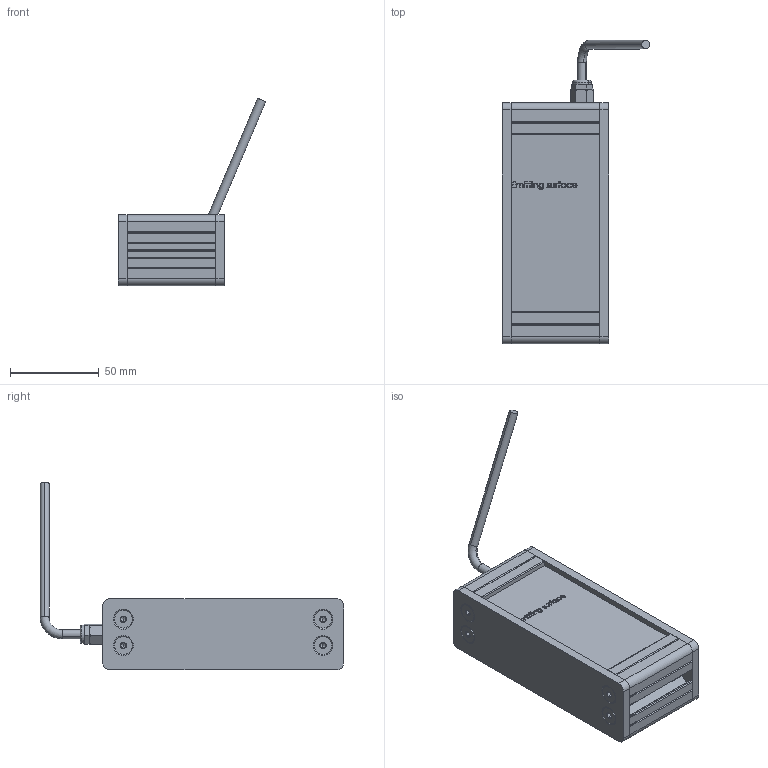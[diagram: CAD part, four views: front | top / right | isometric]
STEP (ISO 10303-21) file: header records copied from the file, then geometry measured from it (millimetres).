
FILE_DESCRIPTION (( 'STEP AP214' ), '1' );
FILE_NAME ('EFFI-BL-50T-100-1M12.STEP', '2021-06-28T08:02:57', ( '' ), ( '' ), 'SwSTEP 2.0', 'SolidWorks 2021', '' );
FILE_SCHEMA (( 'AUTOMOTIVE_DESIGN' ));
Length unit declared in the file: millimetre
Products named in the file (7): 003776; profile modif_lg 99.5 mm; bord fin modif_lg 436.5 mm; EFFI-BL-50T-100-1M12; Pièce2^EFFI-BL-XXXT-YYY + M12; cordon_Avec cable
Assembly tree (14 placements, depth 2):
  EFFI-BL-50T-100-1M12
    profile modif_lg 99.5 mm
    bord fin modif_lg 436.5 mm  x2
    Pièce2^EFFI-BL-XXXT-YYY + M12
    profile modif_lg 99.5 mm
    003776  x8
    cordon_Avec cable
Bounding box: 83.2 x 171.15 x 105.8 mm (x, y, z)
Volume: 288386.8 mm3; surface area: 69762 mm2
Topology: 13 solids, 19 shells, 629 faces, 1602 edges, 1029 vertices
Faces by surface type: plane 325, bspline 180, cylinder 96, cone 18, torus 10
Entity records: 19192 total; most frequent: CARTESIAN_POINT 7634, ORIENTED_EDGE 2332, DIRECTION 1838, EDGE_CURVE 1170, LINE 794, VECTOR 794, VERTEX_POINT 772, AXIS2_PLACEMENT_3D 522
